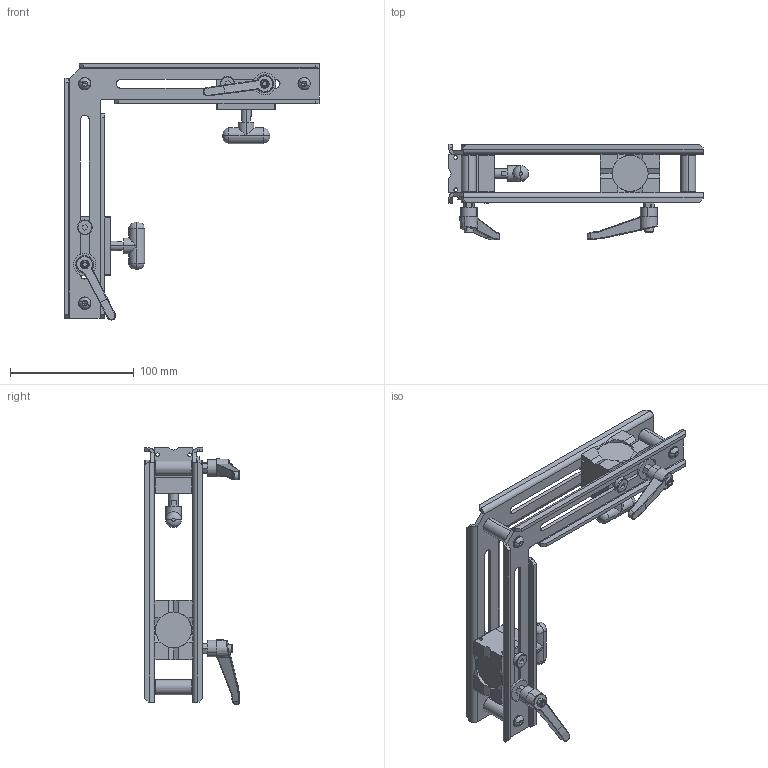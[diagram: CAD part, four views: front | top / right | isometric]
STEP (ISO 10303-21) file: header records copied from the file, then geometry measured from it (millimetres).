
FILE_DESCRIPTION (( 'STEP AP203' ), '1' );
FILE_NAME ('8000548_p.STEP', '2013-07-02T21:36:52', ( '' ), ( '' ), 'SwSTEP 2.0', 'SolidWorks 2010', '' );
FILE_SCHEMA (( 'CONFIG_CONTROL_DESIGN' ));
Length unit declared in the file: millimetre
Products named in the file (1): 8000548_p
Bounding box: 205 x 76.78 x 206.58 mm (x, y, z)
Surface area: 96509.1 mm2 (no closed solid volume)
Topology: 0 solids, 51 shells, 724 faces, 1886 edges, 1197 vertices
Faces by surface type: plane 401, cylinder 184, cone 97, bspline 22, sphere 12, torus 8
Entity records: 25435 total; most frequent: CARTESIAN_POINT 7880, DIRECTION 3732, ORIENTED_EDGE 3315, EDGE_CURVE 1886, AXIS2_PLACEMENT_3D 1341, VERTEX_POINT 1197, VECTOR 1050, LINE 1050
